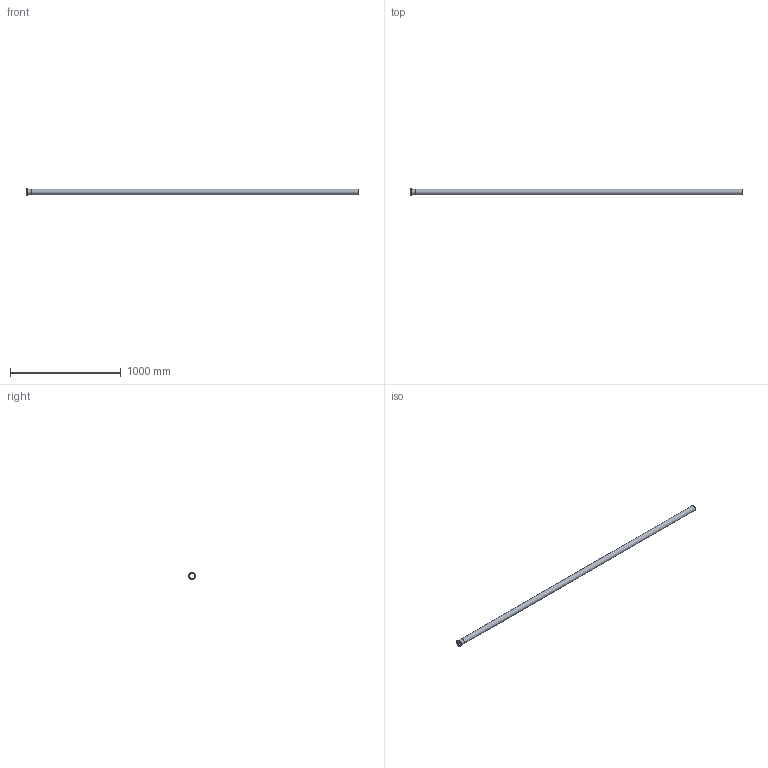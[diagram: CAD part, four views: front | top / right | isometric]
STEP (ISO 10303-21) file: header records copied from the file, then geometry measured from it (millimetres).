
FILE_DESCRIPTION((''),'2;1');
FILE_NAME('I:\WATTS\3D_CAD\3D_CAD_Models\Blucher_Drains\P_StraightPipe\WebsiteFiles\3D\STEP\P2-9.8-316.stp','2009-12-02T13:29:58',('menesek'),(''),'Autodesk Inventor 2010','Autodesk Inventor 2010','');
FILE_SCHEMA(('AUTOMOTIVE_DESIGN { 1 0 10303 214 1 1 1 1 }'));
Length unit declared in the file: inch
Products named in the file (1): P2-9.8-316
Bounding box: 3000 x 60.96 x 60.96 mm (x, y, z)
Volume: 477937.6 mm3; surface area: 926632.8 mm2
Topology: 1 solids, 1 shells, 109 faces, 285 edges, 190 vertices
Faces by surface type: plane 59, bspline 34, cylinder 16
Full cylindrical faces by diameter (mm): 48.006 x1, 50.038 x1, 50.8 x2, 60.96 x1
Entity records: 13765 total; most frequent: CARTESIAN_POINT 11387, ORIENTED_EDGE 548, DIRECTION 356, EDGE_CURVE 274, VERTEX_POINT 186, EDGE_LOOP 128, AXIS2_PLACEMENT_3D 120, VECTOR 116
